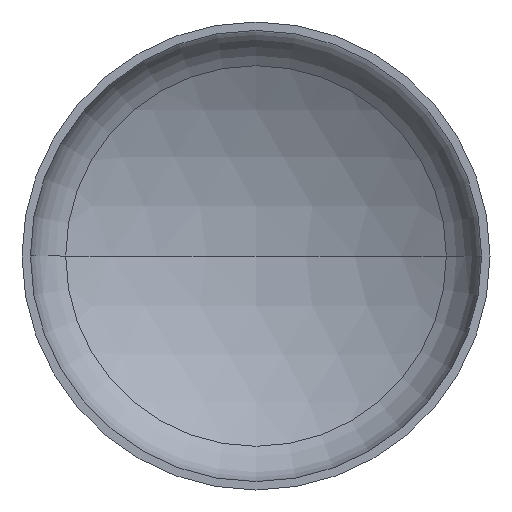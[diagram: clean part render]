
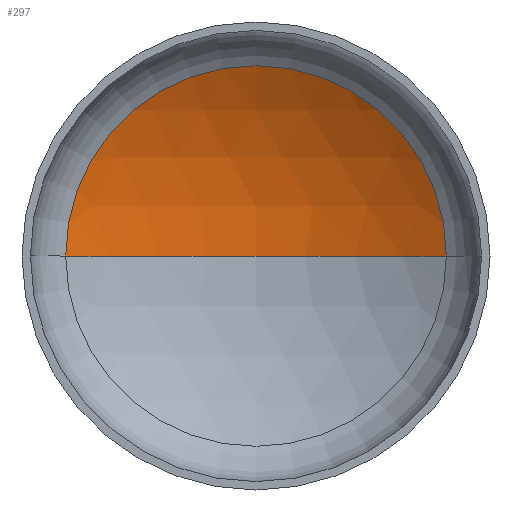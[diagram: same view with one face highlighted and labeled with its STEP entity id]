
A CAD part, front view. The second image highlights one B-rep face of the part: STEP entity #297.
In plain terms, the highlighted spherical face has radius 1200 mm.
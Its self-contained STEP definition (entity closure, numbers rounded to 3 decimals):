
#26 = AXIS2_PLACEMENT_3D ( 'NONE', #202, #260, #315 ) ;
#35 = DIRECTION ( 'NONE',  ( 1., 0., 0. ) ) ;
#41 = CARTESIAN_POINT ( 'NONE',  ( 0., -750.375, 0. ) ) ;
#43 = ORIENTED_EDGE ( 'NONE', *, *, #152, .T. ) ;
#48 = CIRCLE ( 'NONE', #83, 1200. ) ;
#51 = VERTEX_POINT ( 'NONE', #257 ) ;
#80 = AXIS2_PLACEMENT_3D ( 'NONE', #174, #221, #310 ) ;
#81 = ORIENTED_EDGE ( 'NONE', *, *, #153, .T. ) ;
#83 = AXIS2_PLACEMENT_3D ( 'NONE', #41, #226, #223 ) ;
#86 = AXIS2_PLACEMENT_3D ( 'NONE', #386, #213, #35 ) ;
#94 = EDGE_LOOP ( 'NONE', ( #100, #81, #43 ) ) ;
#100 = ORIENTED_EDGE ( 'NONE', *, *, #154, .F. ) ;
#108 = VERTEX_POINT ( 'NONE', #263 ) ;
#135 = CIRCLE ( 'NONE', #80, 1200. ) ;
#137 = CARTESIAN_POINT ( 'NONE',  ( -609.897, 283.079, 0. ) ) ;
#152 = EDGE_CURVE ( 'NONE', #108, #224, #195, .T. ) ;
#153 = EDGE_CURVE ( 'NONE', #51, #108, #48, .T. ) ;
#154 = EDGE_CURVE ( 'NONE', #51, #224, #135, .T. ) ;
#170 = SPHERICAL_SURFACE ( 'NONE', #26, 1200. ) ;
#174 = CARTESIAN_POINT ( 'NONE',  ( 0., -750.375, 0. ) ) ;
#195 = CIRCLE ( 'NONE', #86, 609.897 ) ;
#202 = CARTESIAN_POINT ( 'NONE',  ( 0., -750.375, 0. ) ) ;
#213 = DIRECTION ( 'NONE',  ( 0., -1., 0. ) ) ;
#221 = DIRECTION ( 'NONE',  ( 0., 0., 1. ) ) ;
#223 = DIRECTION ( 'NONE',  ( -1., 0., 0. ) ) ;
#224 = VERTEX_POINT ( 'NONE', #137 ) ;
#226 = DIRECTION ( 'NONE',  ( 0., 0., -1. ) ) ;
#257 = CARTESIAN_POINT ( 'NONE',  ( 0., 449.625, 0. ) ) ;
#260 = DIRECTION ( 'NONE',  ( 0., 0., -1. ) ) ;
#263 = CARTESIAN_POINT ( 'NONE',  ( 609.897, 283.079, 0. ) ) ;
#290 = FACE_OUTER_BOUND ( 'NONE', #94, .T. ) ;
#297 = ADVANCED_FACE ( 'NONE', ( #290 ), #170, .F. ) ;
#310 = DIRECTION ( 'NONE',  ( 1., 0., 0. ) ) ;
#315 = DIRECTION ( 'NONE',  ( -1., 0., 0. ) ) ;
#386 = CARTESIAN_POINT ( 'NONE',  ( 0., 283.079, 0. ) ) ;
